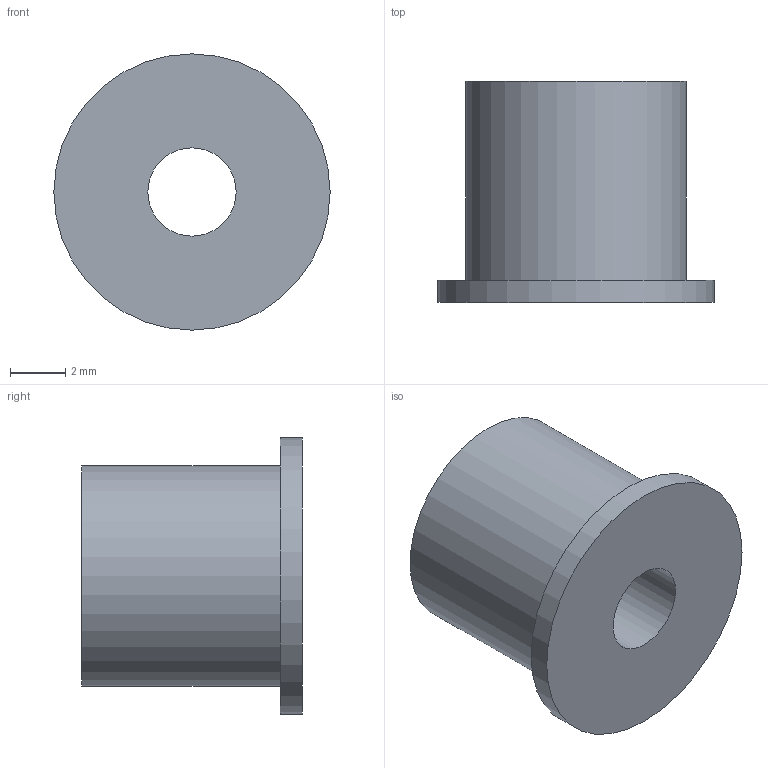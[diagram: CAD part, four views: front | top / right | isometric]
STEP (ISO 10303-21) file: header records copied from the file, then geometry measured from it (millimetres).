
FILE_DESCRIPTION(/* description */ (''),/* implementation_level */ '2;1');
FILE_NAME(/* name */ '6-16-2 Joy axle two.step',/* time_stamp */ '2025-05-10T22:37:40+02:00',/* author */ (''),/* organization */ (''),/* preprocessor_version */ 'ST-DEVELOPER v20.1',/* originating_system */ 'Autodesk Translation Framework v14.4.0.0',/* authorisation */ '');
FILE_SCHEMA (('AUTOMOTIVE_DESIGN { 1 0 10303 214 3 1 1 }'));
Length unit declared in the file: millimetre
Products named in the file (1): 6-16-2 Joy axle two
Bounding box: 10 x 8 x 10 mm (x, y, z)
Volume: 299.7 mm3; surface area: 453.9 mm2
Topology: 1 solids, 1 shells, 8 faces, 12 edges, 8 vertices
Faces by surface type: plane 4, cylinder 4
Full cylindrical faces by diameter (mm): 3.2 x1, 6 x1, 8 x1, 10 x1
Entity records: 228 total; most frequent: DIRECTION 38, CARTESIAN_POINT 29, ORIENTED_EDGE 24, AXIS2_PLACEMENT_3D 17, EDGE_LOOP 12, EDGE_CURVE 12, FACE_OUTER_BOUND 8, CIRCLE 8
